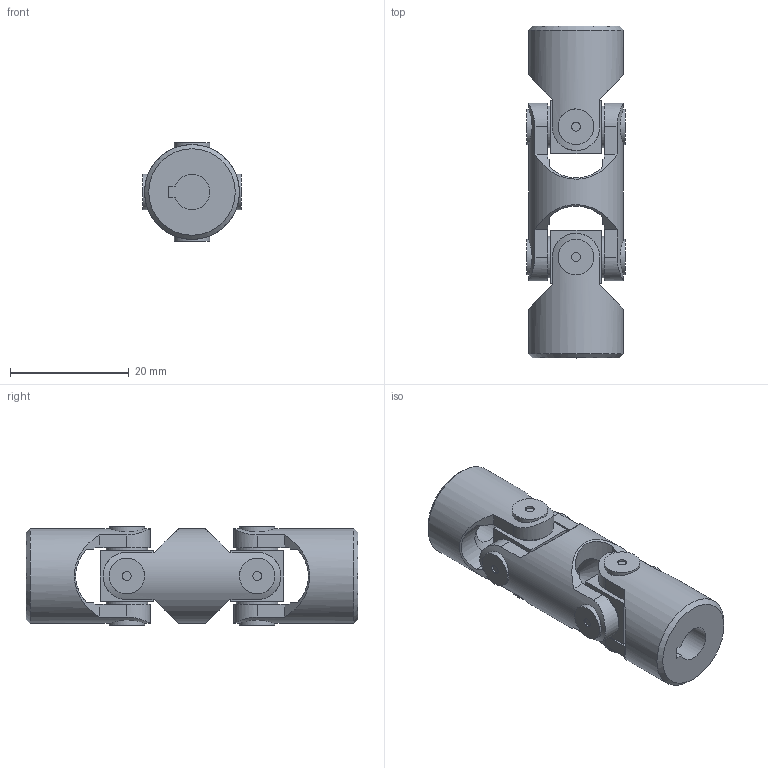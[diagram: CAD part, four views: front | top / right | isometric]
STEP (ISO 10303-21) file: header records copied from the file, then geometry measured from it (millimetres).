
FILE_DESCRIPTION(/* description */ (''),/* implementation_level */ '2;1');
FILE_NAME(/* name */ '\\SRV2016\Societa\Stefano\Disegni 3D\00Catalogo 3D\02Doppi GD-GBD\SG0D061C.stp',/* time_stamp */ '2021-11-22T16:51:55+01:00',/* author */ ('acquisti'),/* organization */ (''),/* preprocessor_version */ 'ST-DEVELOPER v15.6',/* originating_system */ 'Autodesk Inventor 2015',/* authorisation */ '');
FILE_SCHEMA (('AUTOMOTIVE_DESIGN { 1 0 10303 214 3 1 1 }'));
Length unit declared in the file: millimetre
Products named in the file (5): 01G MOD; 01-02G SFE; 01G MOC; 01G MOS; Ø16_01GD-00_SG0D0600
Assembly tree (5 placements, depth 2):
  Ø16_01GD-00_SG0D0600
    01G MOD
    01-02G SFE  x2
    01G MOC
    01G MOS
Bounding box: 16.7 x 56 x 16.7 mm (x, y, z)
Volume: 7787.8 mm3; surface area: 5585.1 mm2
Topology: 5 solids, 5 shells, 140 faces, 348 edges, 238 vertices
Faces by surface type: plane 73, cylinder 41, cone 22, torus 4
Full cylindrical faces by diameter (mm): 1.5 x8, 6 x9, 7 x8, 8.5 x4, 16 x3
Entity records: 4284 total; most frequent: CARTESIAN_POINT 1528, ORIENTED_EDGE 526, DIRECTION 525, EDGE_CURVE 263, AXIS2_PLACEMENT_3D 229, VERTEX_POINT 199, EDGE_LOOP 186, FACE_OUTER_BOUND 126
